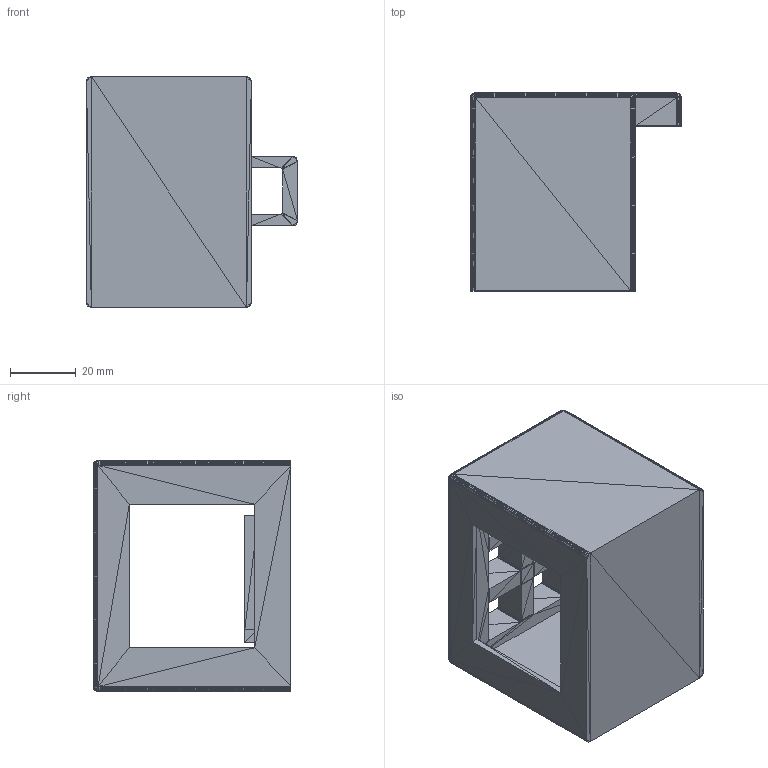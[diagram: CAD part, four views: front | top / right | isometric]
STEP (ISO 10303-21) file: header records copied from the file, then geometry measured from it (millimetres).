
FILE_DESCRIPTION((''),'2;1');
FILE_NAME('Main part', '2026-03-16T15:28:06', (''), (''), 'ImageToStl.com STEP Converter','', '');
FILE_SCHEMA(('AUTOMOTIVE_DESIGN_CC2'));
Length unit declared in the file: metre
Products named in the file (1): product0
Bounding box: 64 x 60 x 70 mm (x, y, z)
Surface area: 30566.8 mm2 (no closed solid volume)
Topology: 0 solids, 2822 shells, 2822 faces, 8466 edges, 1397 vertices
Faces by surface type: plane 2822
Entity records: 64913 total; most frequent: DIRECTION 14112, ORIENTED_EDGE 8466, EDGE_CURVE 8466, LINE 8466, VECTOR 8466, AXIS2_PLACEMENT_3D 2823, FACE_SURFACE 2822, PLANE 2822
